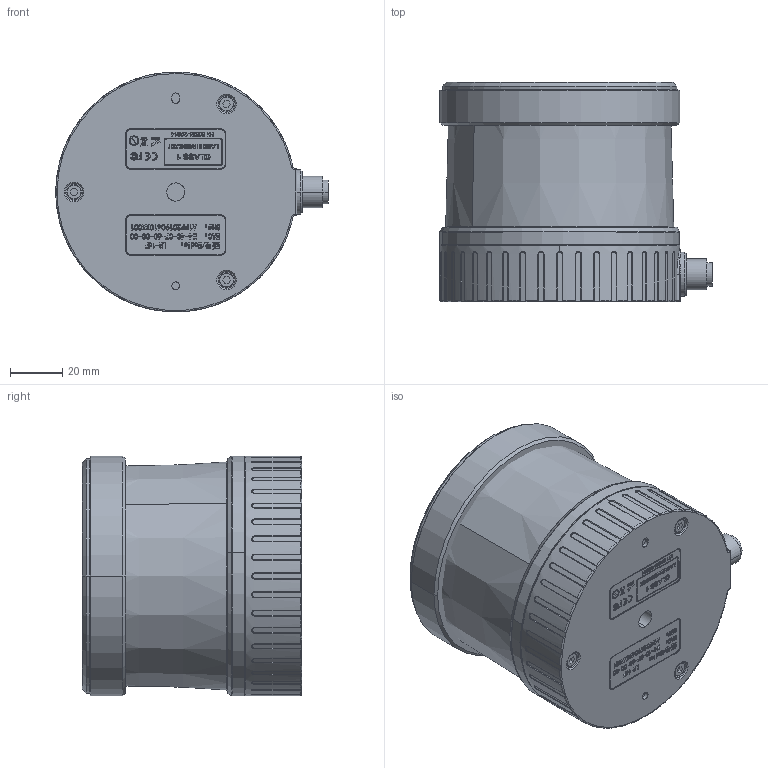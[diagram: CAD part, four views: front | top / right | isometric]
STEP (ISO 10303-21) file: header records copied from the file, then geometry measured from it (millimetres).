
FILE_DESCRIPTION (( 'STEP AP214' ), '1' );
FILE_NAME ('LR-16F 翋儂-CT-2020.STEP', '2020-03-25T01:22:27', ( 'win7' ), ( '' ), 'SwSTEP 2.0', 'SolidWorks 2018', '' );
FILE_SCHEMA (( 'AUTOMOTIVE_DESIGN' ));
Length unit declared in the file: millimetre
Products named in the file (1): LR-16F 翋儂-CT-2020
Bounding box: 104.5 x 84.16 x 92 mm (x, y, z)
Volume: 618427 mm3; surface area: 86045.8 mm2
Topology: 12 solids, 13 shells, 2150 faces, 5586 edges, 3670 vertices
Faces by surface type: plane 1183, bspline 623, cylinder 277, cone 49, torus 18
Entity records: 133822 total; most frequent: CARTESIAN_POINT 62389, ORIENTED_EDGE 11164, DIRECTION 7356, EDGE_CURVE 5582, VERTEX_POINT 3670, VECTOR 3386, LINE 3386, EDGE_LOOP 2376
